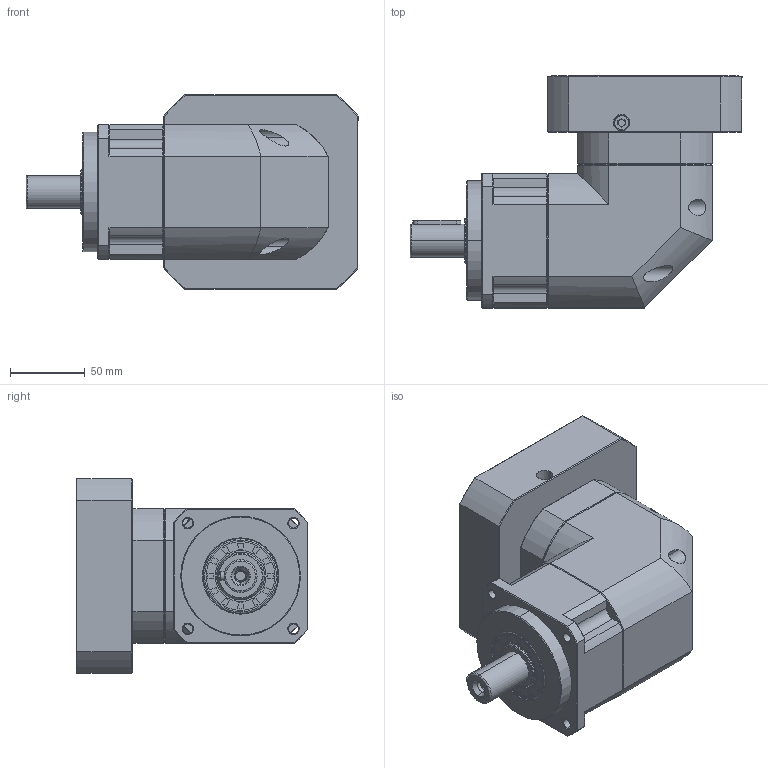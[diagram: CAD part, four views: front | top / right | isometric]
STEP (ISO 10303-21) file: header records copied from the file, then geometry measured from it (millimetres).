
FILE_DESCRIPTION (( 'STEP AP214' ), '1' );
FILE_NAME ('ZPBR090-D22-L1-P1-22-110-130-M8.step', '2024-06-07T18:34:28', ( 'Windows 蚚誧' ), ( 'Organization' ), 'SwSTEP 2.0', 'SolidWorks 2016', '' );
FILE_SCHEMA (( 'AUTOMOTIVE_DESIGN' ));
Length unit declared in the file: millimetre
Products named in the file (1): ZPBR090-D22-L1-P1-22-110-130-M8
Bounding box: 222 x 155 x 130 mm (x, y, z)
Surface area: 166609.1 mm2 (no closed solid volume)
Topology: 0 solids, 34 shells, 1818 faces, 4896 edges, 3157 vertices
Faces by surface type: plane 971, bspline 373, cone 240, cylinder 217, torus 17
Full cylindrical faces by diameter (mm): 6.72 x1
Entity records: 93005 total; most frequent: CARTESIAN_POINT 46550, ORIENTED_EDGE 9695, DIRECTION 7541, EDGE_CURVE 4891, LINE 3245, VECTOR 3245, VERTEX_POINT 3155, AXIS2_PLACEMENT_3D 2148
